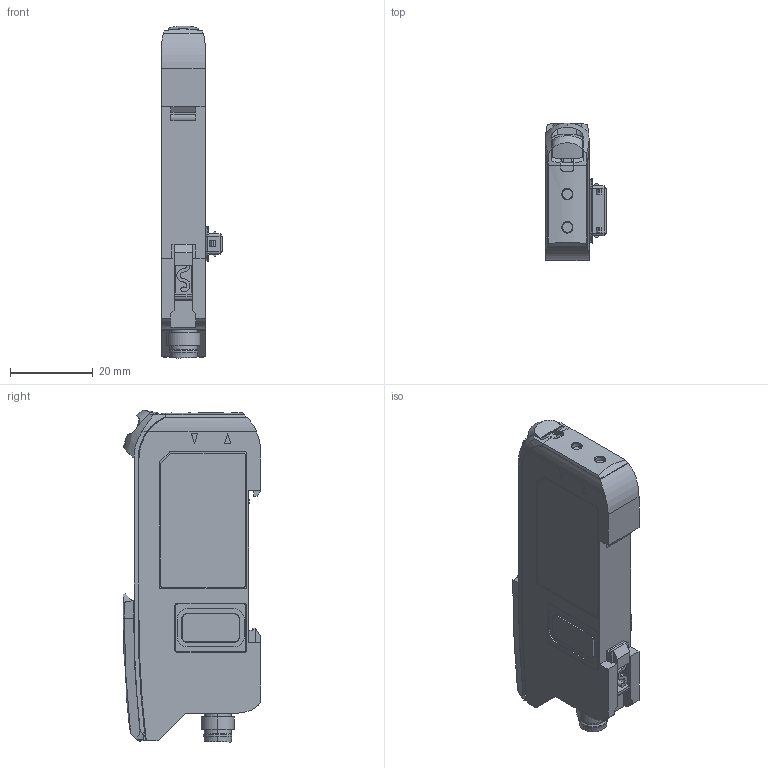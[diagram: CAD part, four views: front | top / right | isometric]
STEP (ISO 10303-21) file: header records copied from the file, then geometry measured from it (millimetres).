
FILE_DESCRIPTION (( 'STEP AP214' ), '1' );
FILE_NAME ('D4RF-TSC4_220425.STEP', '2022-04-25T11:02:57', ( '' ), ( '' ), 'SwSTEP 2.0', 'SolidWorks 2021', '' );
FILE_SCHEMA (( 'AUTOMOTIVE_DESIGN' ));
Length unit declared in the file: millimetre
Products named in the file (3): 220425366; 220425361; D4RF-TSC4_220425
Assembly tree (2 placements, depth 2):
  D4RF-TSC4_220425
    220425366
    220425361
Bounding box: 14.72 x 33.2 x 80.15 mm (x, y, z)
Volume: 22878 mm3; surface area: 9900.3 mm2
Topology: 2 solids, 18 shells, 974 faces, 2488 edges, 1581 vertices
Faces by surface type: plane 462, cylinder 267, bspline 176, cone 69
Entity records: 46812 total; most frequent: CARTESIAN_POINT 14234, ORIENTED_EDGE 4912, DIRECTION 3779, EDGE_CURVE 2456, VERTEX_POINT 1581, VECTOR 1333, LINE 1333, AXIS2_PLACEMENT_3D 1223
